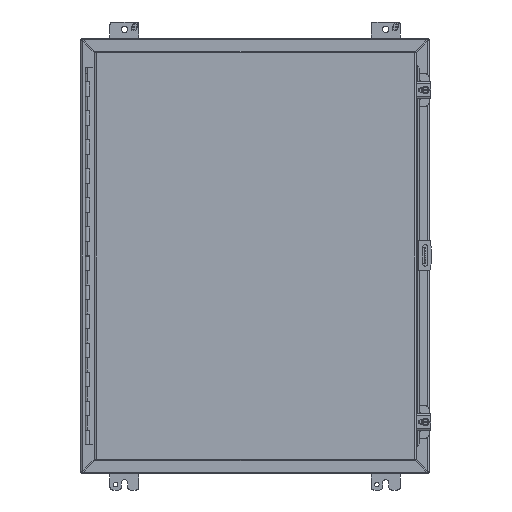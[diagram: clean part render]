
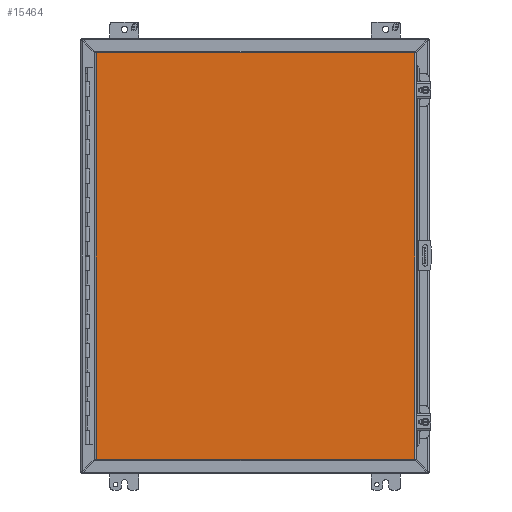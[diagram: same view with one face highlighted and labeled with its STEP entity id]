
A CAD part, front view. The second image highlights one B-rep face of the part: STEP entity #15464.
In plain terms, the highlighted planar face has unit normal (0, -1, 0).
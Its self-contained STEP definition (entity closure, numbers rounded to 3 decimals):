
#846=LINE('',#23691,#2309);
#847=LINE('',#23694,#2310);
#848=LINE('',#23696,#2311);
#849=LINE('',#23698,#2312);
#2309=VECTOR('',#19337,1000.);
#2310=VECTOR('',#19338,1000.);
#2311=VECTOR('',#19339,1000.);
#2312=VECTOR('',#19340,1000.);
#6164=ORIENTED_EDGE('',*,*,#9547,.T.);
#6165=ORIENTED_EDGE('',*,*,#9548,.T.);
#6166=ORIENTED_EDGE('',*,*,#9549,.T.);
#6167=ORIENTED_EDGE('',*,*,#9550,.T.);
#9547=EDGE_CURVE('',#11397,#11398,#846,.T.);
#9548=EDGE_CURVE('',#11398,#11399,#847,.T.);
#9549=EDGE_CURVE('',#11399,#11400,#848,.T.);
#9550=EDGE_CURVE('',#11400,#11397,#849,.T.);
#11397=VERTEX_POINT('',#23692);
#11398=VERTEX_POINT('',#23693);
#11399=VERTEX_POINT('',#23695);
#11400=VERTEX_POINT('',#23697);
#13056=EDGE_LOOP('',(#6164,#6165,#6166,#6167));
#14009=FACE_BOUND('',#13056,.T.);
#14780=PLANE('',#16687);
#15464=ADVANCED_FACE('',(#14009),#14780,.T.);
#16687=AXIS2_PLACEMENT_3D('',#23690,#19335,#19336);
#19335=DIRECTION('',(0.,-1.,0.));
#19336=DIRECTION('',(0.,0.,-1.));
#19337=DIRECTION('',(0.,0.,-1.));
#19338=DIRECTION('',(1.,0.,0.));
#19339=DIRECTION('',(0.,0.,1.));
#19340=DIRECTION('',(-1.,0.,0.));
#23690=CARTESIAN_POINT('',(-279.044,0.,-355.46));
#23691=CARTESIAN_POINT('',(-279.044,0.,355.46));
#23692=CARTESIAN_POINT('',(-279.044,0.,355.46));
#23693=CARTESIAN_POINT('',(-279.044,0.,-355.46));
#23694=CARTESIAN_POINT('',(-279.044,0.,-355.46));
#23695=CARTESIAN_POINT('',(279.044,0.,-355.46));
#23696=CARTESIAN_POINT('',(279.044,0.,-355.46));
#23697=CARTESIAN_POINT('',(279.044,0.,355.46));
#23698=CARTESIAN_POINT('',(279.044,0.,355.46));
